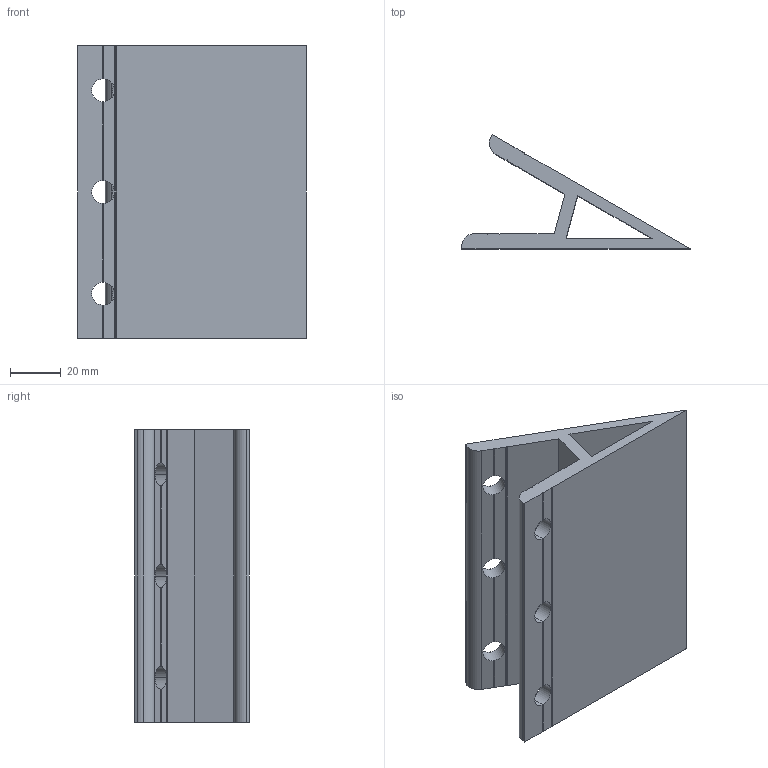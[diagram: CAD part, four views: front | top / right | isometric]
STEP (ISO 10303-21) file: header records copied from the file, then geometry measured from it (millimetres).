
FILE_DESCRIPTION (( 'STEP AP203' ), '1' );
FILE_NAME ('DALV30115-8.STEP', '2020-10-14T02:25:46', ( '' ), ( '' ), 'SwSTEP 2.0', 'SolidWorks 2017', '' );
FILE_SCHEMA (( 'CONFIG_CONTROL_DESIGN' ));
Length unit declared in the file: millimetre
Products named in the file (1): DALV30115-8
Bounding box: 90 x 45 x 115 mm (x, y, z)
Volume: 99861.1 mm3; surface area: 43896 mm2
Topology: 1 solids, 1 shells, 75 faces, 243 edges, 158 vertices
Faces by surface type: plane 60, cylinder 15
Entity records: 2748 total; most frequent: CARTESIAN_POINT 621, ORIENTED_EDGE 486, DIRECTION 389, EDGE_CURVE 243, VERTEX_POINT 158, LINE 153, VECTOR 153, AXIS2_PLACEMENT_3D 118
